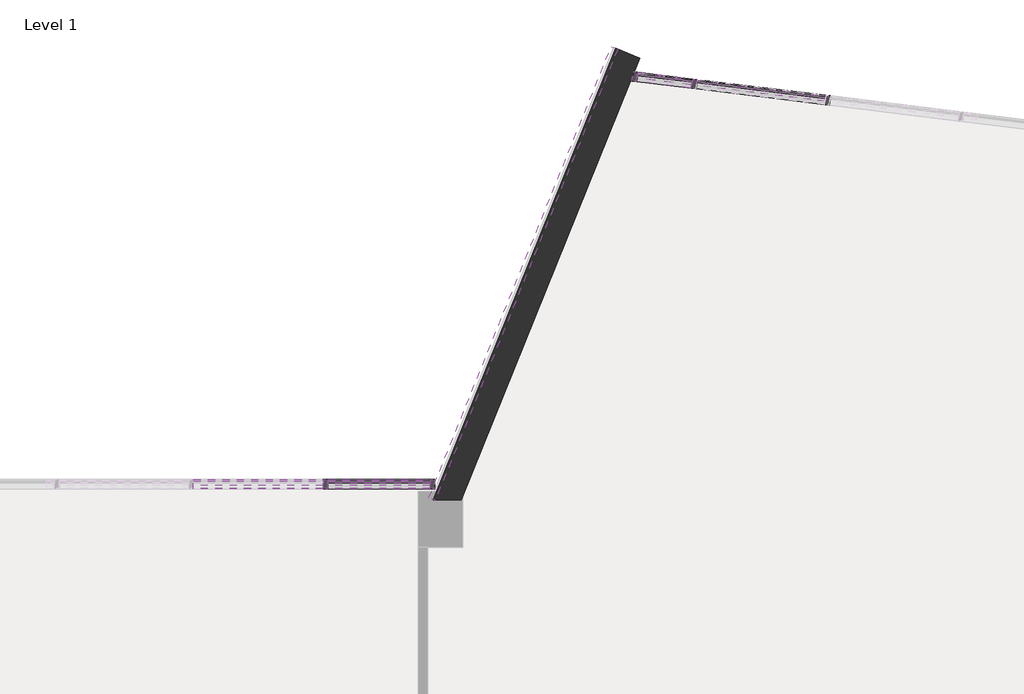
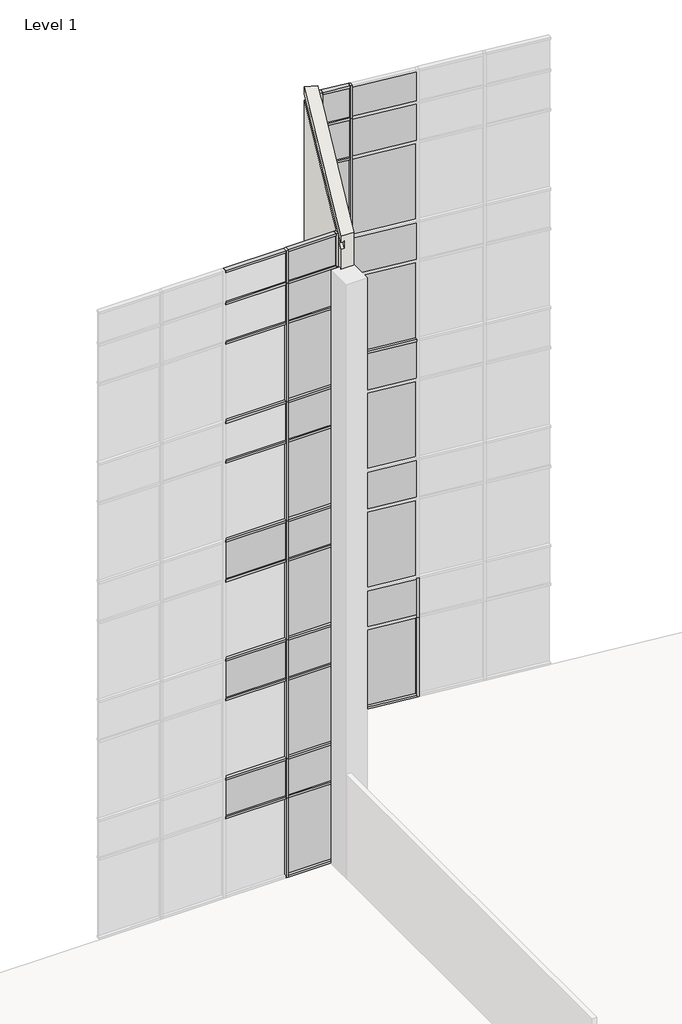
# One storey, part 15 of 23: 67 members, 36 plates, 3 proxies, 1 wall.
"""IFC4 building model written with IfcOpenShell, lengths in millimetres."""

from ifc_helpers import new_model, si_unit, frame, origin, place, context, project, spatial, polyline, outline, extrude, faceted_brep, transform, mapped, element, save
from components import member_2b49869a, member_f92b8aa2, member_810865a4, member_f0fea5a5, member_6d5c3e5e, member_9764dd38, member_8e09d03a, member_4d31274b, member_9db209c3, member_bbc63846, member_ee409385, member_75074519, member_2adbf4d9, member_705e9429, system_panel_glazed_14c75400, system_panel_glazed_df53f363, system_panel_glazed_6d390525, system_panel_solid_5dfe6f83, system_panel_solid_e25e2004, system_panel_solid_b7551183, system_panel_solid_cf908f75, system_panel_solid_7b03d3b8, system_panel_solid_c28df52d, system_panel_solid_db451ef0, system_panel_solid_2f6d7fa1, system_panel_solid_37f52b2b

model = new_model("IFC4")

# Units and contexts
model_context = context("Model", 3, world=origin())
ifc_project = project(units=[si_unit("LENGTHUNIT", "METRE", prefix="MILLI")], contexts=[model_context])

# Site, building, storey
site = spatial("IfcSite", under=ifc_project)
building = spatial("IfcBuilding", under=site)
storey = spatial("IfcBuildingStorey", under=building, Name="Level 1", Elevation=0.0)

# Proxies
placement = place(None, origin())
element("IfcBuildingElementProxy", 1, Name="Reveals", at=placement, inside=storey, context=model_context, shape_type="SweptSolid", body=[
    extrude(outline(polyline([(-32824.629873, 9795.5496433), (-32910.0003265, 9830.0415454), (-30426.2719644, 15977.4849617), (-30340.901511, 15942.9930596), (-32824.629873, 9795.5496433)])), frame((0.0, 0.0, 1625.6), z_axis=(0.0, 0.0, 1.0), x_axis=(1.0, 0.0, 0.0)), (0.0, 0.0, 1.0), 67.7333333),
])
element("IfcBuildingElementProxy", 2, Name="Reveals", at=placement, inside=storey, context=model_context, shape_type="SweptSolid", body=[
    extrude(outline(polyline([(-32824.629873, 9795.5496433), (-32910.0003265, 9830.0415454), (-30426.2719644, 15977.4849617), (-30340.901511, 15942.9930596), (-32824.629873, 9795.5496433)])), frame((0.0, 0.0, 2235.2), z_axis=(0.0, 0.0, 1.0), x_axis=(1.0, 0.0, 0.0)), (0.0, 0.0, 1.0), 67.7333333),
])
element("IfcBuildingElementProxy", 3, Name="Reveals", at=placement, inside=storey, context=model_context, shape_type="SweptSolid", body=[
    extrude(outline(polyline([(-32824.629873, 9795.5496433), (-32910.0003265, 9830.0415454), (-30426.2719644, 15977.4849617), (-30340.901511, 15942.9930596), (-32824.629873, 9795.5496433)])), frame((0.0, 0.0, 2844.8), z_axis=(0.0, 0.0, 1.0), x_axis=(1.0, 0.0, 0.0)), (0.0, 0.0, 1.0), 67.7333333),
])

# Members
member_shape = member_2b49869a(model_context)
element("IfcMember", 4, ObjectType="Rectangular Mullion : 2.5\" x 5\" rectangular", at=placement, inside=storey, context=model_context, shape_type="MappedRepresentation", body=[
    mapped(member_shape, transform((-27482.5203826, 15245.7903744, 2438.4), x_axis=(0.9925461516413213, -0.12186934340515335, 0.0), y_axis=(-0.12186934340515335, -0.9925461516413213, 0.0), z_axis=(0.0, 0.0, -1.0))),
])
element("IfcMember", 5, ObjectType="Rectangular Mullion : 2.5\" x 5\" rectangular", at=placement, inside=storey, context=model_context, shape_type="MappedRepresentation", body=[
    mapped(member_shape, transform((-29297.6887847, 15468.6650296, 2438.4), x_axis=(0.9925461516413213, -0.12186934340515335, 0.0), y_axis=(-0.12186934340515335, -0.9925461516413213, 0.0), z_axis=(0.0, 0.0, -1.0))),
])
element("IfcMember", 6, ObjectType="Rectangular Mullion : 2.5\" x 5\" rectangular", at=placement, inside=storey, context=model_context, shape_type="MappedRepresentation", body=[
    mapped(member_shape, transform((-34316.2623649, 10017.7896508, 2438.4), x_axis=(1.0, 0.0, 0.0), y_axis=(0.0, -1.0, 0.0), z_axis=(0.0, 0.0, -1.0))),
])
member_2_shape = member_f92b8aa2(model_context)
element("IfcMember", 7, ObjectType="Rectangular Mullion : 2.5\" x 5\" rectangular", at=placement, inside=storey, context=model_context, shape_type="MappedRepresentation", body=[
    mapped(member_2_shape, transform((-29297.6887847, 15468.6650296, 18288.0), x_axis=(0.9925461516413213, -0.12186934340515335, 0.0), y_axis=(-0.12186934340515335, -0.9925461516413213, 0.0), z_axis=(0.0, 0.0, -1.0))),
])
element("IfcMember", 8, ObjectType="Rectangular Mullion : 2.5\" x 5\" rectangular", at=placement, inside=storey, context=model_context, shape_type="MappedRepresentation", body=[
    mapped(member_2_shape, transform((-34316.2623649, 10017.7896508, 18288.0), x_axis=(1.0, 0.0, 0.0), y_axis=(0.0, -1.0, 0.0), z_axis=(0.0, 0.0, -1.0))),
])
member_3_shape = member_810865a4(model_context)
element("IfcMember", 9, ObjectType="Rectangular Mullion : 2.5\" x 5\" rectangular", at=placement, inside=storey, context=model_context, shape_type="MappedRepresentation", body=[
    mapped(member_3_shape, transform((-29297.6887847, 15468.6650296, 14630.4), x_axis=(0.9925461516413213, -0.12186934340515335, 0.0), y_axis=(-0.12186934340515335, -0.9925461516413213, 0.0), z_axis=(0.0, 0.0, -1.0))),
])
element("IfcMember", 10, ObjectType="Rectangular Mullion : 2.5\" x 5\" rectangular", at=placement, inside=storey, context=model_context, shape_type="MappedRepresentation", body=[
    mapped(member_3_shape, transform((-29297.6887847, 15468.6650296, 10972.8), x_axis=(0.9925461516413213, -0.12186934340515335, 0.0), y_axis=(-0.12186934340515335, -0.9925461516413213, 0.0), z_axis=(0.0, 0.0, -1.0))),
])
element("IfcMember", 11, ObjectType="Rectangular Mullion : 2.5\" x 5\" rectangular", at=placement, inside=storey, context=model_context, shape_type="MappedRepresentation", body=[
    mapped(member_3_shape, transform((-29297.6887847, 15468.6650296, 7315.2), x_axis=(0.9925461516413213, -0.12186934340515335, 0.0), y_axis=(-0.12186934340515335, -0.9925461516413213, 0.0), z_axis=(0.0, 0.0, -1.0))),
])
element("IfcMember", 12, ObjectType="Rectangular Mullion : 2.5\" x 5\" rectangular", at=placement, inside=storey, context=model_context, shape_type="MappedRepresentation", body=[
    mapped(member_3_shape, transform((-29297.6887847, 15468.6650296, 3657.6), x_axis=(0.9925461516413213, -0.12186934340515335, 0.0), y_axis=(-0.12186934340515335, -0.9925461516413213, 0.0), z_axis=(0.0, 0.0, -1.0))),
])
element("IfcMember", 13, ObjectType="Rectangular Mullion : 2.5\" x 5\" rectangular", at=placement, inside=storey, context=model_context, shape_type="MappedRepresentation", body=[
    mapped(member_3_shape, transform((-34316.2623649, 10017.7896508, 14630.4), x_axis=(1.0, 0.0, 0.0), y_axis=(0.0, -1.0, 0.0), z_axis=(0.0, 0.0, -1.0))),
])
element("IfcMember", 14, ObjectType="Rectangular Mullion : 2.5\" x 5\" rectangular", at=placement, inside=storey, context=model_context, shape_type="MappedRepresentation", body=[
    mapped(member_3_shape, transform((-34316.2623649, 10017.7896508, 10972.8), x_axis=(1.0, 0.0, 0.0), y_axis=(0.0, -1.0, 0.0), z_axis=(0.0, 0.0, -1.0))),
])
element("IfcMember", 15, ObjectType="Rectangular Mullion : 2.5\" x 5\" rectangular", at=placement, inside=storey, context=model_context, shape_type="MappedRepresentation", body=[
    mapped(member_3_shape, transform((-34316.2623649, 10017.7896508, 7315.2), x_axis=(1.0, 0.0, 0.0), y_axis=(0.0, -1.0, 0.0), z_axis=(0.0, 0.0, -1.0))),
])
element("IfcMember", 16, ObjectType="Rectangular Mullion : 2.5\" x 5\" rectangular", at=placement, inside=storey, context=model_context, shape_type="MappedRepresentation", body=[
    mapped(member_3_shape, transform((-34316.2623649, 10017.7896508, 3657.6), x_axis=(1.0, 0.0, 0.0), y_axis=(0.0, -1.0, 0.0), z_axis=(0.0, 0.0, -1.0))),
])
member_4_shape = member_f0fea5a5(model_context)
element("IfcMember", 17, ObjectType="Rectangular Mullion : 2.5\" x 5\" rectangular", at=placement, inside=storey, context=model_context, shape_type="MappedRepresentation", body=[
    mapped(member_4_shape, transform((-27482.5203826, 15245.7903744, 0.0), x_axis=(0.9925461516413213, -0.12186934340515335, 0.0), y_axis=(-0.12186934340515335, -0.9925461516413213, 0.0), z_axis=(0.0, 0.0, -1.0))),
])
element("IfcMember", 18, ObjectType="Rectangular Mullion : 2.5\" x 5\" rectangular", at=placement, inside=storey, context=model_context, shape_type="MappedRepresentation", body=[
    mapped(member_4_shape, transform((-29297.6887847, 15468.6650296, 0.0), x_axis=(0.9925461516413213, -0.12186934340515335, 0.0), y_axis=(-0.12186934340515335, -0.9925461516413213, 0.0), z_axis=(0.0, 0.0, -1.0))),
])
element("IfcMember", 19, ObjectType="Rectangular Mullion : 2.5\" x 5\" rectangular", at=placement, inside=storey, context=model_context, shape_type="MappedRepresentation", body=[
    mapped(member_4_shape, transform((-34316.2623649, 10017.7896508, 0.0), x_axis=(1.0, 0.0, 0.0), y_axis=(0.0, -1.0, 0.0), z_axis=(0.0, 0.0, -1.0))),
])
member_5_shape = member_6d5c3e5e(model_context)
element("IfcMember", 20, ObjectType="Rectangular Mullion : 2.5\" x 5\" rectangular", at=placement, inside=storey, context=model_context, shape_type="MappedRepresentation", body=[
    mapped(member_5_shape, transform((-34348.0123649, 10017.7896508, 19304.0), x_axis=(0.0, 0.0, 1.0), y_axis=(0.0, -1.0, 0.0), z_axis=(1.0, 0.0, 0.0))),
])
member_6_shape = member_9764dd38(model_context)
element("IfcMember", 21, ObjectType="Rectangular Mullion : 2.5\" x 5\" rectangular", at=placement, inside=storey, context=model_context, shape_type="MappedRepresentation", body=[
    mapped(member_6_shape, transform((-34348.0123649, 10017.7896508, 17068.8), x_axis=(0.0, 0.0, 1.0), y_axis=(0.0, -1.0, 0.0), z_axis=(1.0, 0.0, 0.0))),
])
element("IfcMember", 22, ObjectType="Rectangular Mullion : 2.5\" x 5\" rectangular", at=placement, inside=storey, context=model_context, shape_type="MappedRepresentation", body=[
    mapped(member_6_shape, transform((-34348.0123649, 10017.7896508, 13411.2), x_axis=(0.0, 0.0, 1.0), y_axis=(0.0, -1.0, 0.0), z_axis=(1.0, 0.0, 0.0))),
])
element("IfcMember", 23, ObjectType="Rectangular Mullion : 2.5\" x 5\" rectangular", at=placement, inside=storey, context=model_context, shape_type="MappedRepresentation", body=[
    mapped(member_6_shape, transform((-34348.0123649, 10017.7896508, 9753.6), x_axis=(0.0, 0.0, 1.0), y_axis=(0.0, -1.0, 0.0), z_axis=(1.0, 0.0, 0.0))),
])
element("IfcMember", 24, ObjectType="Rectangular Mullion : 2.5\" x 5\" rectangular", at=placement, inside=storey, context=model_context, shape_type="MappedRepresentation", body=[
    mapped(member_6_shape, transform((-34348.0123649, 10017.7896508, 6096.0), x_axis=(0.0, 0.0, 1.0), y_axis=(0.0, -1.0, 0.0), z_axis=(1.0, 0.0, 0.0))),
])
element("IfcMember", 25, ObjectType="Rectangular Mullion : 2.5\" x 5\" rectangular", at=placement, inside=storey, context=model_context, shape_type="MappedRepresentation", body=[
    mapped(member_6_shape, transform((-34348.0123649, 10017.7896508, 2470.15), x_axis=(0.0, 0.0, 1.0), y_axis=(0.0, -1.0, 0.0), z_axis=(1.0, 0.0, 0.0))),
])
element("IfcMember", 26, ObjectType="Rectangular Mullion : 2.5\" x 5\" rectangular", at=placement, inside=storey, context=model_context, shape_type="MappedRepresentation", body=[
    mapped(member_5_shape, transform((-29266.1754444, 15464.7956779, 0.0), x_axis=(0.0, 0.0, -1.0), y_axis=(-0.12186934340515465, -0.9925461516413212, 0.0), z_axis=(-0.9925461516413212, 0.12186934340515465, 0.0))),
])
element("IfcMember", 27, ObjectType="Rectangular Mullion : 2.5\" x 5\" rectangular", at=placement, inside=storey, context=model_context, shape_type="MappedRepresentation", body=[
    mapped(member_6_shape, transform((-27514.0337229, 15249.659726, 10972.8), x_axis=(0.0, 0.0, 1.0), y_axis=(-0.12186934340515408, -0.9925461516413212, 0.0), z_axis=(0.9925461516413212, -0.12186934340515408, 0.0))),
])
element("IfcMember", 28, ObjectType="Rectangular Mullion : 2.5\" x 5\" rectangular", at=placement, inside=storey, context=model_context, shape_type="MappedRepresentation", body=[
    mapped(member_6_shape, transform((-34348.0123649, 10017.7896508, 10972.8), x_axis=(0.0, 0.0, 1.0), y_axis=(0.0, -1.0, 0.0), z_axis=(1.0, 0.0, 0.0))),
])
element("IfcMember", 29, ObjectType="Rectangular Mullion : 2.5\" x 5\" rectangular", at=placement, inside=storey, context=model_context, shape_type="MappedRepresentation", body=[
    mapped(member_6_shape, transform((-34348.0123649, 10017.7896508, 7315.2), x_axis=(0.0, 0.0, 1.0), y_axis=(0.0, -1.0, 0.0), z_axis=(1.0, 0.0, 0.0))),
])
element("IfcMember", 30, ObjectType="Rectangular Mullion : 2.5\" x 5\" rectangular", at=placement, inside=storey, context=model_context, shape_type="MappedRepresentation", body=[
    mapped(member_6_shape, transform((-34348.0123649, 10017.7896508, 18288.0), x_axis=(0.0, 0.0, 1.0), y_axis=(0.0, -1.0, 0.0), z_axis=(1.0, 0.0, 0.0))),
])
element("IfcMember", 31, ObjectType="Rectangular Mullion : 2.5\" x 5\" rectangular", at=placement, inside=storey, context=model_context, shape_type="MappedRepresentation", body=[
    mapped(member_6_shape, transform((-34348.0123649, 10017.7896508, 14630.4), x_axis=(0.0, 0.0, 1.0), y_axis=(0.0, -1.0, 0.0), z_axis=(1.0, 0.0, 0.0))),
])
element("IfcMember", 32, ObjectType="Rectangular Mullion : 2.5\" x 5\" rectangular", at=placement, inside=storey, context=model_context, shape_type="MappedRepresentation", body=[
    mapped(member_6_shape, transform((-34348.0123649, 10017.7896508, 3657.6), x_axis=(0.0, 0.0, 1.0), y_axis=(0.0, -1.0, 0.0), z_axis=(1.0, 0.0, 0.0))),
])
member_7_shape = member_8e09d03a(model_context)
element("IfcMember", 33, ObjectType="Rectangular Mullion : 2.5\" x 5\" rectangular", at=placement, inside=storey, context=model_context, shape_type="MappedRepresentation", body=[
    mapped(member_7_shape, transform((-30138.1413273, 15571.859626, 19304.0), x_axis=(-0.9925461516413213, 0.12186934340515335, 0.0), y_axis=(-0.12186934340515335, -0.9925461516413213, 0.0), z_axis=(0.0, 0.0, 1.0))),
])
member_8_shape = member_4d31274b(model_context)
element("IfcMember", 34, ObjectType="Rectangular Mullion : 2.5\" x 5\" rectangular", at=placement, inside=storey, context=model_context, shape_type="MappedRepresentation", body=[
    mapped(member_8_shape, transform((-30138.1413273, 15571.859626, 7315.2), x_axis=(-0.9925461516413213, 0.12186934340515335, 0.0), y_axis=(-0.12186934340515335, -0.9925461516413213, 0.0), z_axis=(0.0, 0.0, 1.0))),
])
element("IfcMember", 35, ObjectType="Rectangular Mullion : 2.5\" x 5\" rectangular", at=placement, inside=storey, context=model_context, shape_type="MappedRepresentation", body=[
    mapped(member_8_shape, transform((-30138.1413273, 15571.859626, 10972.8), x_axis=(-0.9925461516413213, 0.12186934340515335, 0.0), y_axis=(-0.12186934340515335, -0.9925461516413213, 0.0), z_axis=(0.0, 0.0, 1.0))),
])
element("IfcMember", 36, ObjectType="Rectangular Mullion : 2.5\" x 5\" rectangular", at=placement, inside=storey, context=model_context, shape_type="MappedRepresentation", body=[
    mapped(member_8_shape, transform((-30138.1413273, 15571.859626, 14630.4), x_axis=(-0.9925461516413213, 0.12186934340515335, 0.0), y_axis=(-0.12186934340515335, -0.9925461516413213, 0.0), z_axis=(0.0, 0.0, 1.0))),
])
element("IfcMember", 37, ObjectType="Rectangular Mullion : 2.5\" x 5\" rectangular", at=placement, inside=storey, context=model_context, shape_type="MappedRepresentation", body=[
    mapped(member_8_shape, transform((-30138.1413273, 15571.859626, 18288.0), x_axis=(-0.9925461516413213, 0.12186934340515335, 0.0), y_axis=(-0.12186934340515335, -0.9925461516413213, 0.0), z_axis=(0.0, 0.0, 1.0))),
])
member_9_shape = member_9db209c3(model_context)
element("IfcMember", 38, ObjectType="Rectangular Mullion : 2.5\" x 5\" rectangular", at=placement, inside=storey, context=model_context, shape_type="MappedRepresentation", body=[
    mapped(member_9_shape, transform((-32890.1647338, 10017.7896508, 10972.8), x_axis=(0.0, 0.0, 1.0), y_axis=(0.0, -1.0, 0.0), z_axis=(1.0, 0.0, 0.0))),
])
element("IfcMember", 39, ObjectType="Rectangular Mullion : 2.5\" x 5\" rectangular", at=placement, inside=storey, context=model_context, shape_type="MappedRepresentation", body=[
    mapped(member_9_shape, transform((-32890.1647338, 10017.7896508, 7315.2), x_axis=(0.0, 0.0, 1.0), y_axis=(0.0, -1.0, 0.0), z_axis=(1.0, 0.0, 0.0))),
])
element("IfcMember", 40, ObjectType="Rectangular Mullion : 2.5\" x 5\" rectangular", at=placement, inside=storey, context=model_context, shape_type="MappedRepresentation", body=[
    mapped(member_9_shape, transform((-32890.1647338, 10017.7896508, 18288.0), x_axis=(0.0, 0.0, 1.0), y_axis=(0.0, -1.0, 0.0), z_axis=(1.0, 0.0, 0.0))),
])
element("IfcMember", 41, ObjectType="Rectangular Mullion : 2.5\" x 5\" rectangular", at=placement, inside=storey, context=model_context, shape_type="MappedRepresentation", body=[
    mapped(member_9_shape, transform((-32890.1647338, 10017.7896508, 14630.4), x_axis=(0.0, 0.0, 1.0), y_axis=(0.0, -1.0, 0.0), z_axis=(1.0, 0.0, 0.0))),
])
element("IfcMember", 42, ObjectType="Rectangular Mullion : 2.5\" x 5\" rectangular", at=placement, inside=storey, context=model_context, shape_type="MappedRepresentation", body=[
    mapped(member_9_shape, transform((-32890.1647338, 10017.7896508, 3657.6), x_axis=(0.0, 0.0, 1.0), y_axis=(0.0, -1.0, 0.0), z_axis=(1.0, 0.0, 0.0))),
])
member_10_shape = member_bbc63846(model_context)
element("IfcMember", 43, ObjectType="Rectangular Mullion : 2.5\" x 5\" rectangular", at=placement, inside=storey, context=model_context, shape_type="MappedRepresentation", body=[
    mapped(member_10_shape, transform((-34284.5123649, 10017.7896508, 0.0), x_axis=(0.0, 0.0, -1.0), y_axis=(0.0, -1.0, 0.0), z_axis=(-1.0, 0.0, 0.0))),
])
element("IfcMember", 44, ObjectType="Rectangular Mullion : 2.5\" x 5\" rectangular", at=placement, inside=storey, context=model_context, shape_type="MappedRepresentation", body=[
    mapped(member_10_shape, transform((-32890.1647338, 10017.7896508, 19304.0), x_axis=(0.0, 0.0, 1.0), y_axis=(0.0, -1.0, 0.0), z_axis=(1.0, 0.0, 0.0))),
])
element("IfcMember", 45, ObjectType="Rectangular Mullion : 2.5\" x 5\" rectangular", at=placement, inside=storey, context=model_context, shape_type="MappedRepresentation", body=[
    mapped(member_9_shape, transform((-32890.1647338, 10017.7896508, 17068.8), x_axis=(0.0, 0.0, 1.0), y_axis=(0.0, -1.0, 0.0), z_axis=(1.0, 0.0, 0.0))),
])
element("IfcMember", 46, ObjectType="Rectangular Mullion : 2.5\" x 5\" rectangular", at=placement, inside=storey, context=model_context, shape_type="MappedRepresentation", body=[
    mapped(member_9_shape, transform((-32890.1647338, 10017.7896508, 13411.2), x_axis=(0.0, 0.0, 1.0), y_axis=(0.0, -1.0, 0.0), z_axis=(1.0, 0.0, 0.0))),
])
element("IfcMember", 47, ObjectType="Rectangular Mullion : 2.5\" x 5\" rectangular", at=placement, inside=storey, context=model_context, shape_type="MappedRepresentation", body=[
    mapped(member_9_shape, transform((-32890.1647338, 10017.7896508, 9753.6), x_axis=(0.0, 0.0, 1.0), y_axis=(0.0, -1.0, 0.0), z_axis=(1.0, 0.0, 0.0))),
])
element("IfcMember", 48, ObjectType="Rectangular Mullion : 2.5\" x 5\" rectangular", at=placement, inside=storey, context=model_context, shape_type="MappedRepresentation", body=[
    mapped(member_9_shape, transform((-32890.1647338, 10017.7896508, 6096.0), x_axis=(0.0, 0.0, 1.0), y_axis=(0.0, -1.0, 0.0), z_axis=(1.0, 0.0, 0.0))),
])
element("IfcMember", 49, ObjectType="Rectangular Mullion : 2.5\" x 5\" rectangular", at=placement, inside=storey, context=model_context, shape_type="MappedRepresentation", body=[
    mapped(member_9_shape, transform((-32890.1647338, 10017.7896508, 2470.15), x_axis=(0.0, 0.0, 1.0), y_axis=(0.0, -1.0, 0.0), z_axis=(1.0, 0.0, 0.0))),
])
member_11_shape = member_ee409385(model_context)
element("IfcMember", 50, ObjectType="Rectangular Mullion : 2.5\" x 5\" rectangular", at=placement, inside=storey, context=model_context, shape_type="MappedRepresentation", body=[
    mapped(member_11_shape, transform((-32826.6647338, 10017.7896508, 0.0), x_axis=(1.0, 0.0, 0.0), y_axis=(0.0, -1.0, 0.0), z_axis=(0.0, 0.0, -1.0))),
])
element("IfcMember", 51, ObjectType="Rectangular Mullion : 2.5\" x 5\" rectangular", at=placement, inside=storey, context=model_context, shape_type="MappedRepresentation", body=[
    mapped(member_8_shape, transform((-32826.6647338, 10017.7896508, 3657.6), x_axis=(1.0, 0.0, 0.0), y_axis=(0.0, -1.0, 0.0), z_axis=(0.0, 0.0, -1.0))),
])
element("IfcMember", 52, ObjectType="Rectangular Mullion : 2.5\" x 5\" rectangular", at=placement, inside=storey, context=model_context, shape_type="MappedRepresentation", body=[
    mapped(member_8_shape, transform((-32826.6647338, 10017.7896508, 7315.2), x_axis=(1.0, 0.0, 0.0), y_axis=(0.0, -1.0, 0.0), z_axis=(0.0, 0.0, -1.0))),
])
element("IfcMember", 53, ObjectType="Rectangular Mullion : 2.5\" x 5\" rectangular", at=placement, inside=storey, context=model_context, shape_type="MappedRepresentation", body=[
    mapped(member_8_shape, transform((-32826.6647338, 10017.7896508, 10972.8), x_axis=(1.0, 0.0, 0.0), y_axis=(0.0, -1.0, 0.0), z_axis=(0.0, 0.0, -1.0))),
])
element("IfcMember", 54, ObjectType="Rectangular Mullion : 2.5\" x 5\" rectangular", at=placement, inside=storey, context=model_context, shape_type="MappedRepresentation", body=[
    mapped(member_8_shape, transform((-32826.6647338, 10017.7896508, 14630.4), x_axis=(1.0, 0.0, 0.0), y_axis=(0.0, -1.0, 0.0), z_axis=(0.0, 0.0, -1.0))),
])
element("IfcMember", 55, ObjectType="Rectangular Mullion : 2.5\" x 5\" rectangular", at=placement, inside=storey, context=model_context, shape_type="MappedRepresentation", body=[
    mapped(member_7_shape, transform((-32826.6647338, 10017.7896508, 18288.0), x_axis=(1.0, 0.0, 0.0), y_axis=(0.0, -1.0, 0.0), z_axis=(0.0, 0.0, -1.0))),
])
member_12_shape = member_75074519(model_context)
element("IfcMember", 56, ObjectType="Rectangular Mullion : 2.5\" x 5\" rectangular", at=placement, inside=storey, context=model_context, shape_type="MappedRepresentation", body=[
    mapped(member_12_shape, transform((-32826.6647338, 10017.7896508, 2438.4), x_axis=(1.0, 0.0, 0.0), y_axis=(0.0, -1.0, 0.0), z_axis=(0.0, 0.0, -1.0))),
])
member_13_shape = member_2adbf4d9(model_context)
element("IfcMember", 57, ObjectType="Rectangular Mullion : 2.5\" x 5\" rectangular", at=placement, inside=storey, context=model_context, shape_type="MappedRepresentation", body=[
    mapped(member_13_shape, transform((-29329.202125, 15472.5343812, 19304.0), x_axis=(0.0, 0.0, 1.0), y_axis=(-0.1218693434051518, -0.9925461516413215, 0.0), z_axis=(0.9925461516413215, -0.1218693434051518, 0.0))),
])
member_14_shape = member_705e9429(model_context)
element("IfcMember", 58, ObjectType="Rectangular Mullion : 2.5\" x 5\" rectangular", at=placement, inside=storey, context=model_context, shape_type="MappedRepresentation", body=[
    mapped(member_14_shape, transform((-29329.202125, 15472.5343812, 10972.8), x_axis=(0.0, 0.0, 1.0), y_axis=(-0.12186934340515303, -0.9925461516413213, 0.0), z_axis=(0.9925461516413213, -0.12186934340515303, 0.0))),
])
element("IfcMember", 59, ObjectType="Rectangular Mullion : 2.5\" x 5\" rectangular", at=placement, inside=storey, context=model_context, shape_type="MappedRepresentation", body=[
    mapped(member_14_shape, transform((-29329.202125, 15472.5343812, 7315.2), x_axis=(0.0, 0.0, 1.0), y_axis=(-0.1218693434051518, -0.9925461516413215, 0.0), z_axis=(0.9925461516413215, -0.1218693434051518, 0.0))),
])
element("IfcMember", 60, ObjectType="Rectangular Mullion : 2.5\" x 5\" rectangular", at=placement, inside=storey, context=model_context, shape_type="MappedRepresentation", body=[
    mapped(member_14_shape, transform((-29329.202125, 15472.5343812, 18288.0), x_axis=(0.0, 0.0, 1.0), y_axis=(-0.1218693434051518, -0.9925461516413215, 0.0), z_axis=(0.9925461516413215, -0.1218693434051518, 0.0))),
])
element("IfcMember", 61, ObjectType="Rectangular Mullion : 2.5\" x 5\" rectangular", at=placement, inside=storey, context=model_context, shape_type="MappedRepresentation", body=[
    mapped(member_14_shape, transform((-29329.202125, 15472.5343812, 14630.4), x_axis=(0.0, 0.0, 1.0), y_axis=(-0.12186934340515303, -0.9925461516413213, 0.0), z_axis=(0.9925461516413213, -0.12186934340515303, 0.0))),
])
element("IfcMember", 62, ObjectType="Rectangular Mullion : 2.5\" x 5\" rectangular", at=placement, inside=storey, context=model_context, shape_type="MappedRepresentation", body=[
    mapped(member_14_shape, transform((-29329.202125, 15472.5343812, 3657.6), x_axis=(0.0, 0.0, 1.0), y_axis=(-0.12186934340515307, -0.9925461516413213, 0.0), z_axis=(0.9925461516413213, -0.12186934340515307, 0.0))),
])
element("IfcMember", 63, ObjectType="Rectangular Mullion : 2.5\" x 5\" rectangular", at=placement, inside=storey, context=model_context, shape_type="MappedRepresentation", body=[
    mapped(member_13_shape, transform((-30075.1146466, 15564.1209227, 0.0), x_axis=(0.0, 0.0, -1.0), y_axis=(-0.1218693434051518, -0.9925461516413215, 0.0), z_axis=(-0.9925461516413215, 0.1218693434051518, 0.0))),
])
element("IfcMember", 64, ObjectType="Rectangular Mullion : 2.5\" x 5\" rectangular", at=placement, inside=storey, context=model_context, shape_type="MappedRepresentation", body=[
    mapped(member_14_shape, transform((-29329.202125, 15472.5343812, 17068.8), x_axis=(0.0, 0.0, 1.0), y_axis=(-0.121869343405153, -0.9925461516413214, 0.0), z_axis=(0.9925461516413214, -0.121869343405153, 0.0))),
])
element("IfcMember", 65, ObjectType="Rectangular Mullion : 2.5\" x 5\" rectangular", at=placement, inside=storey, context=model_context, shape_type="MappedRepresentation", body=[
    mapped(member_14_shape, transform((-29329.202125, 15472.5343812, 13411.2), x_axis=(0.0, 0.0, 1.0), y_axis=(-0.12186934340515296, -0.9925461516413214, 0.0), z_axis=(0.9925461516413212, -0.12186934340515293, 0.0))),
])
element("IfcMember", 66, ObjectType="Rectangular Mullion : 2.5\" x 5\" rectangular", at=placement, inside=storey, context=model_context, shape_type="MappedRepresentation", body=[
    mapped(member_14_shape, transform((-29329.202125, 15472.5343812, 9753.6), x_axis=(0.0, 0.0, 1.0), y_axis=(-0.121869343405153, -0.9925461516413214, 0.0), z_axis=(0.9925461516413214, -0.121869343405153, 0.0))),
])
element("IfcMember", 67, ObjectType="Rectangular Mullion : 2.5\" x 5\" rectangular", at=placement, inside=storey, context=model_context, shape_type="MappedRepresentation", body=[
    mapped(member_14_shape, transform((-29329.202125, 15472.5343812, 6096.0), x_axis=(0.0, 0.0, 1.0), y_axis=(-0.12186934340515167, -0.9925461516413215, 0.0), z_axis=(0.9925461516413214, -0.12186934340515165, 0.0))),
])
element("IfcMember", 68, ObjectType="Rectangular Mullion : 2.5\" x 5\" rectangular", at=placement, inside=storey, context=model_context, shape_type="MappedRepresentation", body=[
    mapped(member_14_shape, transform((-29329.202125, 15472.5343812, 2470.15), x_axis=(0.0, 0.0, 1.0), y_axis=(-0.12186934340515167, -0.9925461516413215, 0.0), z_axis=(0.9925461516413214, -0.12186934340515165, 0.0))),
])
element("IfcMember", 69, ObjectType="Rectangular Mullion : 2.5\" x 5\" rectangular", at=placement, inside=storey, context=model_context, shape_type="MappedRepresentation", body=[
    mapped(member_11_shape, transform((-30138.1413273, 15571.859626, 2438.4), x_axis=(-0.9925461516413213, 0.12186934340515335, 0.0), y_axis=(-0.12186934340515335, -0.9925461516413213, 0.0), z_axis=(0.0, 0.0, 1.0))),
])
element("IfcMember", 70, ObjectType="Rectangular Mullion : 2.5\" x 5\" rectangular", at=placement, inside=storey, context=model_context, shape_type="MappedRepresentation", body=[
    mapped(member_12_shape, transform((-30138.1413273, 15571.859626, 3657.6), x_axis=(-0.9925461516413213, 0.12186934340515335, 0.0), y_axis=(-0.12186934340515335, -0.9925461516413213, 0.0), z_axis=(0.0, 0.0, 1.0))),
])

# Plates
system_panel_glazed_shape = system_panel_glazed_14c75400(model_context)
element("IfcPlate", 71, ObjectType="System Panel : Glazed", at=placement, inside=storey, context=model_context, shape_type="MappedRepresentation", body=[
    mapped(system_panel_glazed_shape, transform((-28390.1045836, 15357.227702, 14662.15), x_axis=(0.9925461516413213, -0.12186934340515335, 0.0), y_axis=(0.12186934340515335, 0.9925461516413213, 0.0), z_axis=(0.0, 0.0, 1.0))),
])
element("IfcPlate", 72, ObjectType="System Panel : Glazed", at=placement, inside=storey, context=model_context, shape_type="MappedRepresentation", body=[
    mapped(system_panel_glazed_shape, transform((-28390.1045836, 15357.227702, 11004.55), x_axis=(0.9925461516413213, -0.12186934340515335, 0.0), y_axis=(0.12186934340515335, 0.9925461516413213, 0.0), z_axis=(0.0, 0.0, 1.0))),
])
element("IfcPlate", 73, ObjectType="System Panel : Glazed", at=placement, inside=storey, context=model_context, shape_type="MappedRepresentation", body=[
    mapped(system_panel_glazed_shape, transform((-28390.1045836, 15357.227702, 7346.95), x_axis=(0.9925461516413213, -0.12186934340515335, 0.0), y_axis=(0.12186934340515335, 0.9925461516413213, 0.0), z_axis=(0.0, 0.0, 1.0))),
])
element("IfcPlate", 74, ObjectType="System Panel : Glazed", at=placement, inside=storey, context=model_context, shape_type="MappedRepresentation", body=[
    mapped(system_panel_glazed_shape, transform((-28390.1045836, 15357.227702, 3689.35), x_axis=(0.9925461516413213, -0.12186934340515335, 0.0), y_axis=(0.12186934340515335, 0.9925461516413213, 0.0), z_axis=(0.0, 0.0, 1.0))),
])
element("IfcPlate", 75, ObjectType="System Panel : Glazed", at=placement, inside=storey, context=model_context, shape_type="MappedRepresentation", body=[
    mapped(system_panel_glazed_shape, transform((-28390.1045836, 15357.227702, 63.5), x_axis=(0.9925461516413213, -0.12186934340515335, 0.0), y_axis=(0.12186934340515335, 0.9925461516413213, 0.0), z_axis=(0.0, 0.0, 1.0))),
])
system_panel_glazed_2_shape = system_panel_glazed_df53f363(model_context)
element("IfcPlate", 76, ObjectType="System Panel : Glazed", at=placement, inside=storey, context=model_context, shape_type="MappedRepresentation", body=[
    mapped(system_panel_glazed_2_shape, transform((-33587.3385494, 10017.7896508, 14662.15), x_axis=(1.0, 0.0, 0.0), y_axis=(0.0, 1.0, 0.0), z_axis=(0.0, 0.0, 1.0))),
])
element("IfcPlate", 77, ObjectType="System Panel : Glazed", at=placement, inside=storey, context=model_context, shape_type="MappedRepresentation", body=[
    mapped(system_panel_glazed_2_shape, transform((-33587.3385494, 10017.7896508, 11004.55), x_axis=(1.0, 0.0, 0.0), y_axis=(0.0, 1.0, 0.0), z_axis=(0.0, 0.0, 1.0))),
])
element("IfcPlate", 78, ObjectType="System Panel : Glazed", at=placement, inside=storey, context=model_context, shape_type="MappedRepresentation", body=[
    mapped(system_panel_glazed_2_shape, transform((-33587.3385494, 10017.7896508, 7346.95), x_axis=(1.0, 0.0, 0.0), y_axis=(0.0, 1.0, 0.0), z_axis=(0.0, 0.0, 1.0))),
])
element("IfcPlate", 79, ObjectType="System Panel : Glazed", at=placement, inside=storey, context=model_context, shape_type="MappedRepresentation", body=[
    mapped(system_panel_glazed_2_shape, transform((-33587.3385494, 10017.7896508, 3689.35), x_axis=(1.0, 0.0, 0.0), y_axis=(0.0, 1.0, 0.0), z_axis=(0.0, 0.0, 1.0))),
])
element("IfcPlate", 80, ObjectType="System Panel : Glazed", at=placement, inside=storey, context=model_context, shape_type="MappedRepresentation", body=[
    mapped(system_panel_glazed_2_shape, transform((-33587.3385494, 10017.7896508, 63.5), x_axis=(1.0, 0.0, 0.0), y_axis=(0.0, 1.0, 0.0), z_axis=(0.0, 0.0, 1.0))),
])
system_panel_glazed_3_shape = system_panel_glazed_6d390525(model_context)
element("IfcPlate", 81, ObjectType="System Panel : Glazed", at=placement, inside=storey, context=model_context, shape_type="MappedRepresentation", body=[
    mapped(system_panel_glazed_3_shape, transform((-29702.1583858, 15518.327652, 14662.15), x_axis=(0.9925461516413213, -0.12186934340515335, 0.0), y_axis=(0.12186934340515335, 0.9925461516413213, 0.0), z_axis=(0.0, 0.0, 1.0))),
])
element("IfcPlate", 82, ObjectType="System Panel : Glazed", at=placement, inside=storey, context=model_context, shape_type="MappedRepresentation", body=[
    mapped(system_panel_glazed_3_shape, transform((-29702.1583858, 15518.327652, 11004.55), x_axis=(0.9925461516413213, -0.12186934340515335, 0.0), y_axis=(0.12186934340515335, 0.9925461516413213, 0.0), z_axis=(0.0, 0.0, 1.0))),
])
element("IfcPlate", 83, ObjectType="System Panel : Glazed", at=placement, inside=storey, context=model_context, shape_type="MappedRepresentation", body=[
    mapped(system_panel_glazed_3_shape, transform((-29702.1583858, 15518.327652, 7346.95), x_axis=(0.9925461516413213, -0.12186934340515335, 0.0), y_axis=(0.12186934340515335, 0.9925461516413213, 0.0), z_axis=(0.0, 0.0, 1.0))),
])
element("IfcPlate", 84, ObjectType="System Panel : Glazed", at=placement, inside=storey, context=model_context, shape_type="MappedRepresentation", body=[
    mapped(system_panel_glazed_3_shape, transform((-29702.1583858, 15518.327652, 3689.35), x_axis=(0.9925461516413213, -0.12186934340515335, 0.0), y_axis=(0.12186934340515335, 0.9925461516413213, 0.0), z_axis=(0.0, 0.0, 1.0))),
])
element("IfcPlate", 85, ObjectType="System Panel : Glazed", at=placement, inside=storey, context=model_context, shape_type="MappedRepresentation", body=[
    mapped(system_panel_glazed_3_shape, transform((-29702.1583858, 15518.327652, 63.5), x_axis=(0.9925461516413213, -0.12186934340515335, 0.0), y_axis=(0.12186934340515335, 0.9925461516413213, 0.0), z_axis=(0.0, 0.0, 1.0))),
])
system_panel_solid_shape = system_panel_solid_5dfe6f83(model_context)
element("IfcPlate", 86, ObjectType="System Panel : Solid", at=placement, inside=storey, context=model_context, shape_type="MappedRepresentation", body=[
    mapped(system_panel_solid_shape, transform((-28390.1045836, 15357.227702, 18319.75), x_axis=(0.9925461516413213, -0.12186934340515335, 0.0), y_axis=(0.12186934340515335, 0.9925461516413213, 0.0), z_axis=(0.0, 0.0, 1.0))),
])
system_panel_solid_2_shape = system_panel_solid_e25e2004(model_context)
element("IfcPlate", 87, ObjectType="System Panel : Solid", at=placement, inside=storey, context=model_context, shape_type="MappedRepresentation", body=[
    mapped(system_panel_solid_2_shape, transform((-28390.1045836, 15357.227702, 17100.55), x_axis=(0.9925461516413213, -0.12186934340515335, 0.0), y_axis=(0.12186934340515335, 0.9925461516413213, 0.0), z_axis=(0.0, 0.0, 1.0))),
])
element("IfcPlate", 88, ObjectType="System Panel : Solid", at=placement, inside=storey, context=model_context, shape_type="MappedRepresentation", body=[
    mapped(system_panel_solid_2_shape, transform((-28390.1045836, 15357.227702, 13442.95), x_axis=(0.9925461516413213, -0.12186934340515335, 0.0), y_axis=(0.12186934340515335, 0.9925461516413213, 0.0), z_axis=(0.0, 0.0, 1.0))),
])
element("IfcPlate", 89, ObjectType="System Panel : Solid", at=placement, inside=storey, context=model_context, shape_type="MappedRepresentation", body=[
    mapped(system_panel_solid_2_shape, transform((-35230.6623649, 10017.7896508, 9785.35), x_axis=(1.0, 0.0, 0.0), y_axis=(0.0, 1.0, 0.0), z_axis=(0.0, 0.0, 1.0))),
])
element("IfcPlate", 90, ObjectType="System Panel : Solid", at=placement, inside=storey, context=model_context, shape_type="MappedRepresentation", body=[
    mapped(system_panel_solid_2_shape, transform((-35230.6623649, 10017.7896508, 6127.75), x_axis=(1.0, 0.0, 0.0), y_axis=(0.0, 1.0, 0.0), z_axis=(0.0, 0.0, 1.0))),
])
element("IfcPlate", 91, ObjectType="System Panel : Solid", at=placement, inside=storey, context=model_context, shape_type="MappedRepresentation", body=[
    mapped(system_panel_solid_2_shape, transform((-28390.1045836, 15357.227702, 9785.35), x_axis=(0.9925461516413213, -0.12186934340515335, 0.0), y_axis=(0.12186934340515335, 0.9925461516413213, 0.0), z_axis=(0.0, 0.0, 1.0))),
])
element("IfcPlate", 92, ObjectType="System Panel : Solid", at=placement, inside=storey, context=model_context, shape_type="MappedRepresentation", body=[
    mapped(system_panel_solid_2_shape, transform((-28390.1045836, 15357.227702, 6127.75), x_axis=(0.9925461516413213, -0.12186934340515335, 0.0), y_axis=(0.12186934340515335, 0.9925461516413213, 0.0), z_axis=(0.0, 0.0, 1.0))),
])
system_panel_solid_3_shape = system_panel_solid_b7551183(model_context)
element("IfcPlate", 93, ObjectType="System Panel : Solid", at=placement, inside=storey, context=model_context, shape_type="MappedRepresentation", body=[
    mapped(system_panel_solid_3_shape, transform((-35230.6623649, 10017.7896508, 2501.9), x_axis=(1.0, 0.0, 0.0), y_axis=(0.0, 1.0, 0.0), z_axis=(0.0, 0.0, 1.0))),
])
element("IfcPlate", 94, ObjectType="System Panel : Solid", at=placement, inside=storey, context=model_context, shape_type="MappedRepresentation", body=[
    mapped(system_panel_solid_3_shape, transform((-28390.1045836, 15357.227702, 2501.9), x_axis=(0.9925461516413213, -0.12186934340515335, 0.0), y_axis=(0.12186934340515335, 0.9925461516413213, 0.0), z_axis=(0.0, 0.0, 1.0))),
])
system_panel_solid_4_shape = system_panel_solid_cf908f75(model_context)
element("IfcPlate", 95, ObjectType="System Panel : Solid", at=placement, inside=storey, context=model_context, shape_type="MappedRepresentation", body=[
    mapped(system_panel_solid_4_shape, transform((-33587.3385494, 10017.7896508, 18319.75), x_axis=(1.0, 0.0, 0.0), y_axis=(0.0, 1.0, 0.0), z_axis=(0.0, 0.0, 1.0))),
])
system_panel_solid_5_shape = system_panel_solid_7b03d3b8(model_context)
element("IfcPlate", 96, ObjectType="System Panel : Solid", at=placement, inside=storey, context=model_context, shape_type="MappedRepresentation", body=[
    mapped(system_panel_solid_5_shape, transform((-33587.3385494, 10017.7896508, 17100.55), x_axis=(1.0, 0.0, 0.0), y_axis=(0.0, 1.0, 0.0), z_axis=(0.0, 0.0, 1.0))),
])
element("IfcPlate", 97, ObjectType="System Panel : Solid", at=placement, inside=storey, context=model_context, shape_type="MappedRepresentation", body=[
    mapped(system_panel_solid_5_shape, transform((-33587.3385494, 10017.7896508, 13442.95), x_axis=(1.0, 0.0, 0.0), y_axis=(0.0, 1.0, 0.0), z_axis=(0.0, 0.0, 1.0))),
])
element("IfcPlate", 98, ObjectType="System Panel : Solid", at=placement, inside=storey, context=model_context, shape_type="MappedRepresentation", body=[
    mapped(system_panel_solid_5_shape, transform((-33587.3385494, 10017.7896508, 9785.35), x_axis=(1.0, 0.0, 0.0), y_axis=(0.0, 1.0, 0.0), z_axis=(0.0, 0.0, 1.0))),
])
element("IfcPlate", 99, ObjectType="System Panel : Solid", at=placement, inside=storey, context=model_context, shape_type="MappedRepresentation", body=[
    mapped(system_panel_solid_5_shape, transform((-33587.3385494, 10017.7896508, 6127.75), x_axis=(1.0, 0.0, 0.0), y_axis=(0.0, 1.0, 0.0), z_axis=(0.0, 0.0, 1.0))),
])
system_panel_solid_6_shape = system_panel_solid_c28df52d(model_context)
element("IfcPlate", 100, ObjectType="System Panel : Solid", at=placement, inside=storey, context=model_context, shape_type="MappedRepresentation", body=[
    mapped(system_panel_solid_6_shape, transform((-33587.3385494, 10017.7896508, 2501.9), x_axis=(1.0, 0.0, 0.0), y_axis=(0.0, 1.0, 0.0), z_axis=(0.0, 0.0, 1.0))),
])
system_panel_solid_7_shape = system_panel_solid_db451ef0(model_context)
element("IfcPlate", 101, ObjectType="System Panel : Solid", at=placement, inside=storey, context=model_context, shape_type="MappedRepresentation", body=[
    mapped(system_panel_solid_7_shape, transform((-29702.1583858, 15518.327652, 18319.75), x_axis=(0.9925461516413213, -0.12186934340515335, 0.0), y_axis=(0.12186934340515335, 0.9925461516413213, 0.0), z_axis=(0.0, 0.0, 1.0))),
])
system_panel_solid_8_shape = system_panel_solid_2f6d7fa1(model_context)
element("IfcPlate", 102, ObjectType="System Panel : Solid", at=placement, inside=storey, context=model_context, shape_type="MappedRepresentation", body=[
    mapped(system_panel_solid_8_shape, transform((-29702.1583858, 15518.327652, 17100.55), x_axis=(0.9925461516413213, -0.12186934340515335, 0.0), y_axis=(0.12186934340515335, 0.9925461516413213, 0.0), z_axis=(0.0, 0.0, 1.0))),
])
element("IfcPlate", 103, ObjectType="System Panel : Solid", at=placement, inside=storey, context=model_context, shape_type="MappedRepresentation", body=[
    mapped(system_panel_solid_8_shape, transform((-29702.1583858, 15518.327652, 13442.95), x_axis=(0.9925461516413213, -0.12186934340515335, 0.0), y_axis=(0.12186934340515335, 0.9925461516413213, 0.0), z_axis=(0.0, 0.0, 1.0))),
])
element("IfcPlate", 104, ObjectType="System Panel : Solid", at=placement, inside=storey, context=model_context, shape_type="MappedRepresentation", body=[
    mapped(system_panel_solid_8_shape, transform((-29702.1583858, 15518.327652, 9785.35), x_axis=(0.9925461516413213, -0.12186934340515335, 0.0), y_axis=(0.12186934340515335, 0.9925461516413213, 0.0), z_axis=(0.0, 0.0, 1.0))),
])
element("IfcPlate", 105, ObjectType="System Panel : Solid", at=placement, inside=storey, context=model_context, shape_type="MappedRepresentation", body=[
    mapped(system_panel_solid_8_shape, transform((-29702.1583858, 15518.327652, 6127.75), x_axis=(0.9925461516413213, -0.12186934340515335, 0.0), y_axis=(0.12186934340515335, 0.9925461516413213, 0.0), z_axis=(0.0, 0.0, 1.0))),
])
system_panel_solid_9_shape = system_panel_solid_37f52b2b(model_context)
element("IfcPlate", 106, ObjectType="System Panel : Solid", at=placement, inside=storey, context=model_context, shape_type="MappedRepresentation", body=[
    mapped(system_panel_solid_9_shape, transform((-29702.1583858, 15518.327652, 2501.9), x_axis=(0.9925461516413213, -0.12186934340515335, 0.0), y_axis=(0.12186934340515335, 0.9925461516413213, 0.0), z_axis=(0.0, 0.0, 1.0))),
])

# Wall
element("IfcWall", 107, ObjectType="Exterior - Brick and CMU on MTL. Stud", at=placement, inside=storey, context=model_context, shape_type="Brep", body=[
    faceted_brep([(-32468.0777363, 9805.0646508, 0.0), (-30037.689211, 15820.4873384, 0.0), (-30037.689211, 15820.4873384, 19304.0), (-30239.1993217, 15321.7323126, 19304.0), (-30314.3106087, 15135.8253535, 19304.0), (-32468.0777363, 9805.0646508, 19304.0), (-32468.0777363, 9805.0646508, 18262.6), (-32468.0777363, 9805.0646508, 3657.6), (-30162.7679787, 15510.9065247, 3657.6), (-30162.7679787, 15510.9065247, 3222.625), (-32468.0777363, 9805.0646508, 3222.625), (-32848.1803429, 9805.0646508, 19304.0), (-30364.4519809, 15952.5080671, 19304.0), (-30364.4519809, 15952.5080671, 19100.8), (-32848.1803429, 9805.0646508, 19100.8), (-30364.4519809, 15952.5080671, -406.4), (-32848.1803429, 9805.0646508, -406.4), (-32848.1803429, 9805.0646508, 1016.0), (-30364.4519809, 15952.5080671, 1016.0), (-30364.4519809, 15952.5080671, 1693.3333333), (-32848.1803429, 9805.0646508, 1693.3333333), (-32848.1803429, 9805.0646508, 2235.2), (-30364.4519809, 15952.5080671, 2235.2), (-32848.1803429, 9805.0646508, 1625.6), (-30364.4519809, 15952.5080671, 1625.6), (-30364.4519809, 15952.5080671, 1085.85), (-32848.1803429, 9805.0646508, 1085.85), (-30364.4519809, 15952.5080671, 2302.9333333), (-32848.1803429, 9805.0646508, 2302.9333333), (-32848.1803429, 9805.0646508, 2844.8), (-30364.4519809, 15952.5080671, 2844.8), (-30364.4519809, 15952.5080671, 2912.5333333), (-32848.1803429, 9805.0646508, 2912.5333333), (-32848.1803429, 9805.0646508, 3222.625), (-32787.8895294, 9954.2896508, 3222.625), (-32787.8895294, 9954.2896508, 3657.6), (-32848.1803429, 9805.0646508, 3657.6), (-32848.1803429, 9805.0646508, 18897.6), (-30364.4519809, 15952.5080671, 18897.6), (-30279.0815275, 15918.016165, 0.0), (-30279.0815275, 15918.016165, -406.4), (-30279.0815275, 15918.016165, 1016.0), (-30279.0815275, 15918.016165, 1085.85), (-30340.901511, 15942.9930596, 1625.6), (-30340.901511, 15942.9930596, 1693.3333333), (-30340.901511, 15942.9930596, 2235.2), (-30340.901511, 15942.9930596, 2302.9333333), (-30340.901511, 15942.9930596, 2844.8), (-30340.901511, 15942.9930596, 2912.5333333), (-30279.0815275, 15918.016165, 18897.6), (-30279.0815275, 15918.016165, 19100.8), (-32748.8742565, 9805.0646508, 19100.8), (-32748.8742565, 9805.0646508, 18897.6), (-32748.8742565, 9805.0646508, 0.0), (-32820.7855605, 9805.0646508, 2912.5333333), (-32820.7855605, 9805.0646508, 2844.8), (-32820.7855605, 9805.0646508, 2302.9333333), (-32820.7855605, 9805.0646508, 2235.2), (-32820.7855605, 9805.0646508, 1693.3333333), (-32820.7855605, 9805.0646508, 1625.6), (-32748.8742565, 9805.0646508, 1085.85), (-32748.8742565, 9805.0646508, 1016.0), (-32748.8742565, 9805.0646508, -406.4), (-30175.817983, 15512.5088637, 3222.625), (-32421.4843139, 9954.2896508, 3222.625), (-32421.4843139, 9954.2896508, 3657.6), (-30175.817983, 15512.5088637, 3657.6)], [[[0, 1, 2, 3, 4, 5, 6, 7, 8, 9, 10]], [[11, 12, 13, 14]], [[15, 16, 17, 18]], [[19, 20, 21, 22]], [[23, 24, 25, 26]], [[27, 28, 29, 30]], [[31, 32, 33, 34, 35, 36, 37, 38]], [[2, 1, 39, 40, 15, 18, 41, 42, 25, 24, 43, 44, 19, 22, 45, 46, 27, 30, 47, 48, 31, 38, 49, 50, 13, 12]], [[5, 4, 3, 2, 12, 11]], [[5, 11, 14, 51, 52, 37, 36, 7, 6]], [[53, 0, 10, 33, 32, 54, 55, 29, 28, 56, 57, 21, 20, 58, 59, 23, 26, 60, 61, 17, 16, 62]], [[1, 0, 53, 39]], [[39, 53, 62, 40]], [[62, 16, 15, 40]], [[44, 58, 20, 19]], [[59, 43, 24, 23]], [[58, 44, 43, 59]], [[46, 56, 28, 27]], [[57, 45, 22, 21]], [[56, 46, 45, 57]], [[48, 54, 32, 31]], [[55, 47, 30, 29]], [[54, 48, 47, 55]], [[42, 60, 26, 25]], [[61, 41, 18, 17]], [[60, 42, 41, 61]], [[52, 49, 38, 37]], [[49, 52, 51, 50]], [[50, 51, 14, 13]], [[63, 64, 34, 33, 10, 9]], [[65, 66, 8, 7, 36, 35]], [[64, 63, 66, 65]], [[66, 63, 9, 8]], [[64, 65, 35, 34]]]),
])

save(model, "model.ifc")
